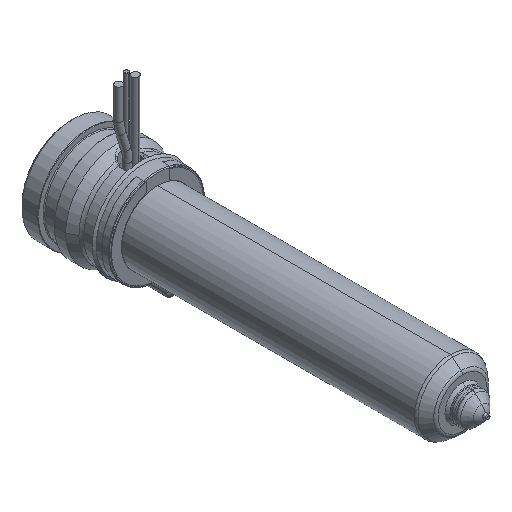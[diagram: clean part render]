
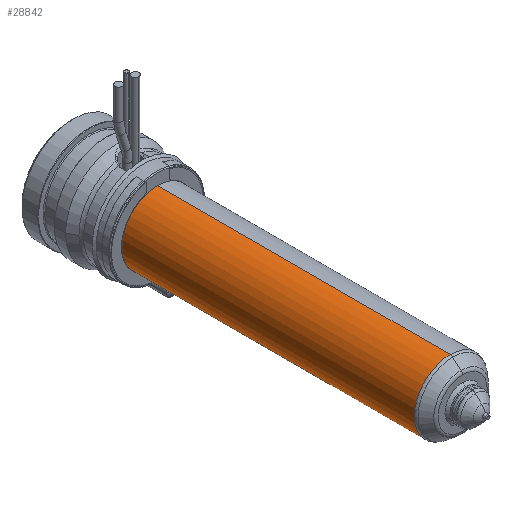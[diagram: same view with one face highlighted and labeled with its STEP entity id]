
A CAD part, isometric view. The second image highlights one B-rep face of the part: STEP entity #28842.
In plain terms, the highlighted cylindrical face has radius 9 mm (diameter 18 mm), a partial arc.
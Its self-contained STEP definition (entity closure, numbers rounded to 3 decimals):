
#28227=CARTESIAN_POINT('',(0.,-95.836,0.));
#28228=DIRECTION('',(0.,-1.,0.));
#28229=DIRECTION('',(0.,0.,1.));
#28230=AXIS2_PLACEMENT_3D('',#28227,#28228,#28229);
#28235=CARTESIAN_POINT('',(0.,-22.,0.));
#28236=DIRECTION('',(0.,-1.,0.));
#28237=DIRECTION('',(0.,0.,1.));
#28238=AXIS2_PLACEMENT_3D('',#28235,#28236,#28237);
#28243=DIRECTION('',(0.,-1.,0.));
#28244=VECTOR('',#28243,73.836);
#28245=CARTESIAN_POINT('',(0.,-22.,9.));
#28246=LINE('',#28245,#28244);
#28258=DIRECTION('',(0.,-1.,0.));
#28259=VECTOR('',#28258,73.836);
#28260=CARTESIAN_POINT('',(0.,-22.,-9.));
#28261=LINE('',#28260,#28259);
#28459=CARTESIAN_POINT('',(0.,-22.,9.));
#28460=CARTESIAN_POINT('',(0.,-95.836,9.));
#28461=VERTEX_POINT('',#28459);
#28462=VERTEX_POINT('',#28460);
#28485=CARTESIAN_POINT('',(0.,-22.,-9.));
#28486=CARTESIAN_POINT('',(0.,-95.836,-9.));
#28487=VERTEX_POINT('',#28485);
#28488=VERTEX_POINT('',#28486);
#28828=CARTESIAN_POINT('',(0.,-13.625,0.));
#28829=DIRECTION('',(0.,-1.,0.));
#28830=DIRECTION('',(0.,0.,1.));
#28831=AXIS2_PLACEMENT_3D('',#28828,#28829,#28830);
#28832=CYLINDRICAL_SURFACE('',#28831,9.);
#28834=ORIENTED_EDGE('',*,*,#28833,.T.);
#28835=ORIENTED_EDGE('',*,*,#28823,.T.);
#28837=ORIENTED_EDGE('',*,*,#28836,.F.);
#28839=ORIENTED_EDGE('',*,*,#28838,.F.);
#28840=EDGE_LOOP('',(#28834,#28835,#28837,#28839));
#28841=FACE_OUTER_BOUND('',#28840,.F.);
#28842=ADVANCED_FACE('',(#28841),#28832,.T.);
#28231=CIRCLE('',#28230,9.);
#28239=CIRCLE('',#28238,9.);
#28823=EDGE_CURVE('',#28462,#28488,#28231,.T.);
#28833=EDGE_CURVE('',#28461,#28462,#28246,.T.);
#28836=EDGE_CURVE('',#28487,#28488,#28261,.T.);
#28838=EDGE_CURVE('',#28461,#28487,#28239,.T.);
